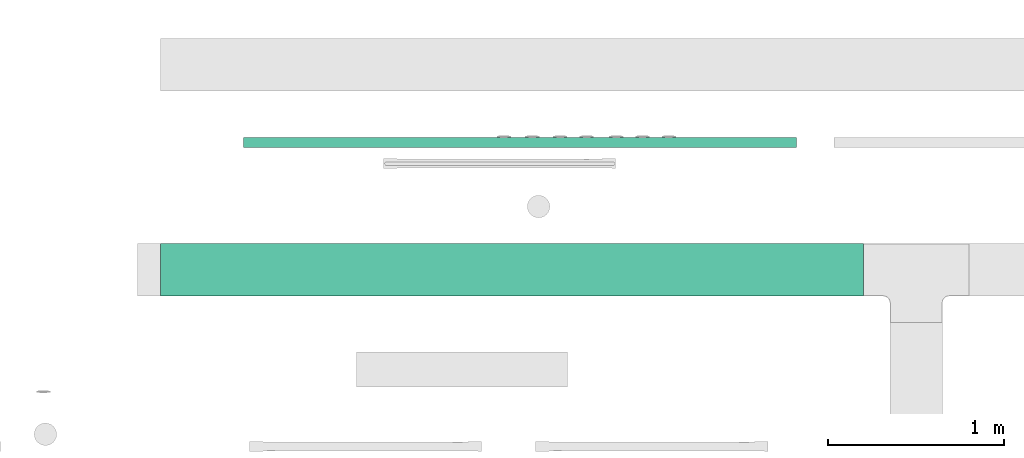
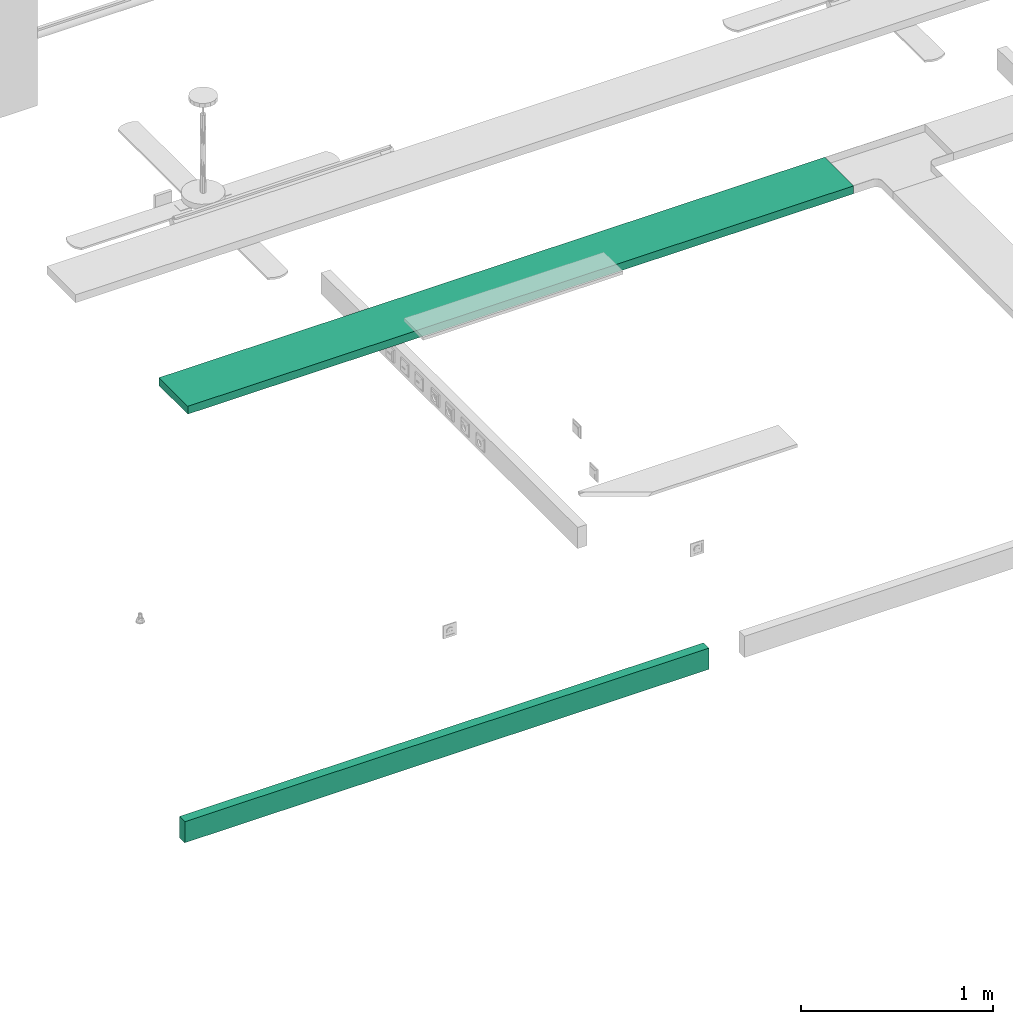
# One storey, part 15 of 153: 2 flow segments.
"""IFC2X3 building model written with IfcOpenShell, lengths in metres."""

from ifc_helpers import new_model, entity, si_unit, converted_unit, derived_unit, direction, frame, frame_2d, origin, origin_2d_with_axis, place, context, subcontext, project, spatial, rectangle, extrude, type_object, element, save


model = new_model("IFC2X3")

# Units and contexts
model_context = context("Model", 3, precision=1e-05, world=origin(), true_north=direction((6.12303176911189e-17, 1.0)))
body_context = subcontext(model_context, "Body", "Model", "MODEL_VIEW")
ifc_project = project(units=[si_unit("LENGTHUNIT", "METRE"), si_unit("AREAUNIT", "SQUARE_METRE"), si_unit("VOLUMEUNIT", "CUBIC_METRE"), converted_unit("PLANEANGLEUNIT", "DEGREE", entity("IfcRatioMeasure", 0.0174532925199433), si_unit("PLANEANGLEUNIT", "RADIAN"), dimensions=[0, 0, 0, 0, 0, 0, 0]), si_unit("MASSUNIT", "GRAM", prefix="KILO"), derived_unit("MASSDENSITYUNIT", [(si_unit("MASSUNIT", "GRAM", prefix="KILO"), 1), (si_unit("LENGTHUNIT", "METRE"), -3)]), si_unit("TIMEUNIT", "SECOND"), si_unit("FREQUENCYUNIT", "HERTZ"), si_unit("THERMODYNAMICTEMPERATUREUNIT", "DEGREE_CELSIUS"), derived_unit("THERMALTRANSMITTANCEUNIT", [(si_unit("MASSUNIT", "GRAM", prefix="KILO"), 1), (si_unit("THERMODYNAMICTEMPERATUREUNIT", "KELVIN"), -1), (si_unit("TIMEUNIT", "SECOND"), -3)]), derived_unit("VOLUMETRICFLOWRATEUNIT", [(si_unit("LENGTHUNIT", "METRE"), 3), (si_unit("TIMEUNIT", "SECOND"), -1)]), si_unit("ELECTRICCURRENTUNIT", "AMPERE"), si_unit("ELECTRICVOLTAGEUNIT", "VOLT"), si_unit("POWERUNIT", "WATT"), si_unit("FORCEUNIT", "NEWTON"), si_unit("ILLUMINANCEUNIT", "LUX"), si_unit("LUMINOUSFLUXUNIT", "LUMEN"), si_unit("LUMINOUSINTENSITYUNIT", "CANDELA"), derived_unit("USERDEFINED", [(si_unit("MASSUNIT", "GRAM", prefix="KILO"), -1), (si_unit("LENGTHUNIT", "METRE"), -2), (si_unit("TIMEUNIT", "SECOND"), 3), (si_unit("LUMINOUSFLUXUNIT", "LUMEN"), 1)]), derived_unit("LINEARVELOCITYUNIT", [(si_unit("LENGTHUNIT", "METRE"), 1), (si_unit("TIMEUNIT", "SECOND"), -1)]), si_unit("PRESSUREUNIT", "PASCAL"), derived_unit("USERDEFINED", [(si_unit("LENGTHUNIT", "METRE"), -2), (si_unit("MASSUNIT", "GRAM", prefix="KILO"), 1), (si_unit("TIMEUNIT", "SECOND"), -2)])], contexts=[model_context])

# Site, building, storey
site_placement = place(None, origin())
site = spatial("IfcSite", under=ifc_project, at=site_placement, Name="Default", CompositionType="ELEMENT")
building_placement = place(site_placement, origin())
building = spatial("IfcBuilding", under=site, at=building_placement, CompositionType="ELEMENT")
storey_placement = place(building_placement, frame((0.0, 0.0, -4.62)))
storey = spatial("IfcBuildingStorey", under=building, at=storey_placement, Name="S02", CompositionType="ELEMENT", Elevation=-4.62)

# Flow segments
cable_carrier_segment_type_1 = type_object("IfcCableCarrierSegmentType", Name="Cable Tray with Fittings:Goulottes de câbles indéfini_Goulottes de câbles", PredefinedType="NOTDEFINED")
flow_segment_1_placement = place(storey_placement, origin())
element("IfcFlowSegment", 1, at=flow_segment_1_placement, inside=storey, type_object=cable_carrier_segment_type_1, Name="Cable Tray with Fittings:Goulottes de câbles indéfini_Goulottes de câbles", ObjectType="Cable Tray with Fittings:Goulottes de câbles indéfini_Goulottes de câbles", context=body_context, shape_type="SweptSolid", body=[
    extrude(rectangle(XDim=3.146, YDim=0.0559999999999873, at=frame_2d((4.32986979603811e-15, 0.0), x_axis=(1.0, 0.0))), frame((51.8056760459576, -189.141069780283, 0.365999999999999), z_axis=(0.0, 0.0, 1.0), x_axis=(-1.0, 0.0, 0.0)), (0.0, 0.0, 1.0), 0.134),
])
cable_carrier_segment_type_2 = type_object("IfcCableCarrierSegmentType", Name="Cable Tray with Fittings:Chemins de câbles en treillis_Chemins de câbles en treillis", PredefinedType="NOTDEFINED")
flow_segment_2_placement = place(storey_placement, origin())
element("IfcFlowSegment", 2, at=flow_segment_2_placement, inside=storey, type_object=cable_carrier_segment_type_2, Name="Cable Tray with Fittings:Chemins de câbles en treillis_Chemins de câbles en treillis", ObjectType="Cable Tray with Fittings:Chemins de câbles en treillis_Chemins de câbles en treillis", context=body_context, shape_type="SweptSolid", body=[
    extrude(rectangle(XDim=0.300000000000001, YDim=3.99637474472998, at=origin_2d_with_axis()), frame((51.7601520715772, -189.865826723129, 3.764), z_axis=(0.0, 0.0, 1.0), x_axis=(0.0, -1.0, 0.0)), (0.0, 0.0, 1.0), 0.05),
])

save(model, "model.ifc")
